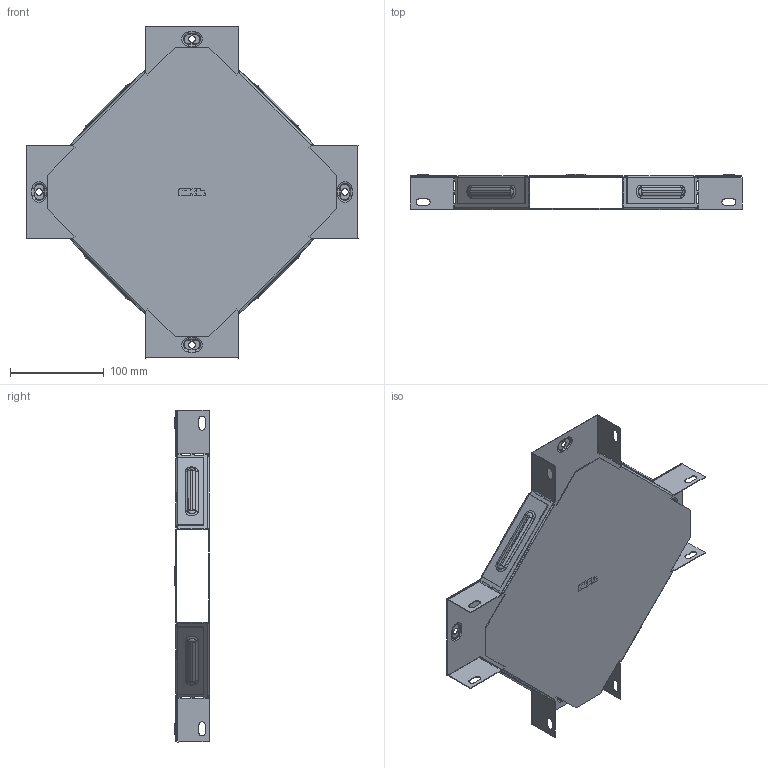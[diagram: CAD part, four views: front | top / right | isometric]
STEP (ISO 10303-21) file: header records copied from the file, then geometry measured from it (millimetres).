
FILE_DESCRIPTION (( 'STEP AP214' ), '1' );
FILE_NAME ('x3510008_捘.STEP', '2019-06-10T07:13:31', ( '砐錪賧瘔蠈錪 Windows' ), ( '' ), 'SwSTEP 2.0', 'SolidWorks 2018', '' );
FILE_SCHEMA (( 'AUTOMOTIVE_DESIGN' ));
Length unit declared in the file: millimetre
Products named in the file (1): x3510008_捘
Bounding box: 355.01 x 37.4 x 355.01 mm (x, y, z)
Volume: 138544.7 mm3; surface area: 349823.2 mm2
Topology: 2 solids, 2 shells, 684 faces, 1916 edges, 1240 vertices
Faces by surface type: plane 366, cylinder 204, torus 96, bspline 18
Entity records: 22923 total; most frequent: CARTESIAN_POINT 4799, ORIENTED_EDGE 3832, DIRECTION 3766, EDGE_CURVE 1916, LINE 1328, VECTOR 1328, VERTEX_POINT 1240, AXIS2_PLACEMENT_3D 1219
